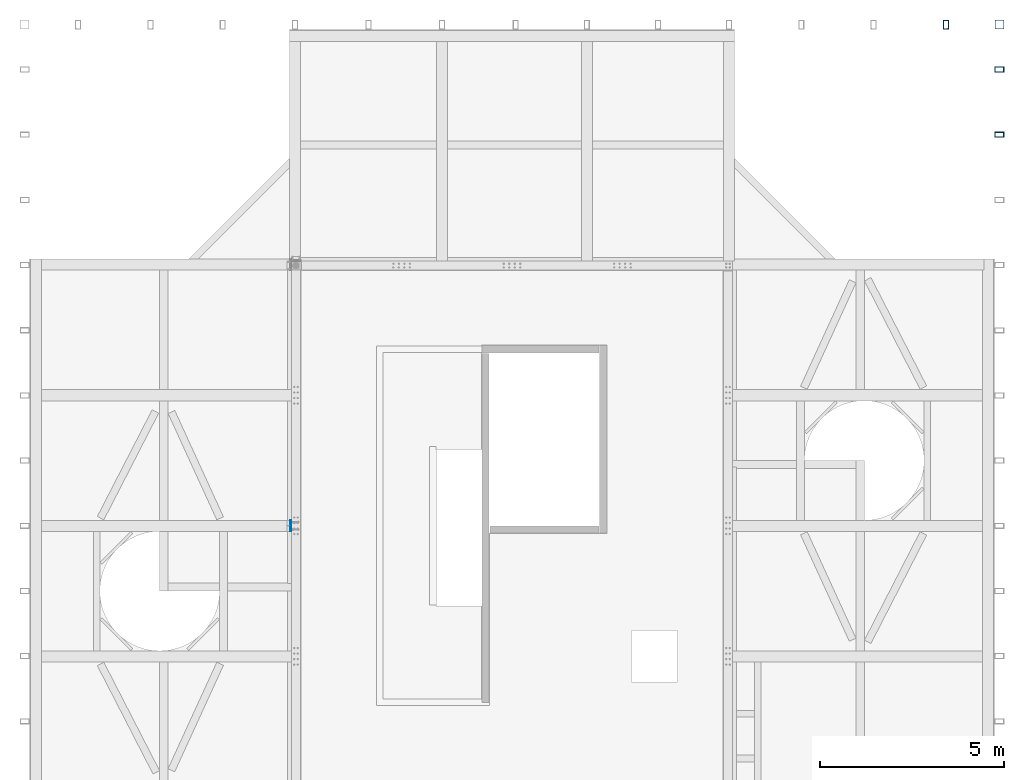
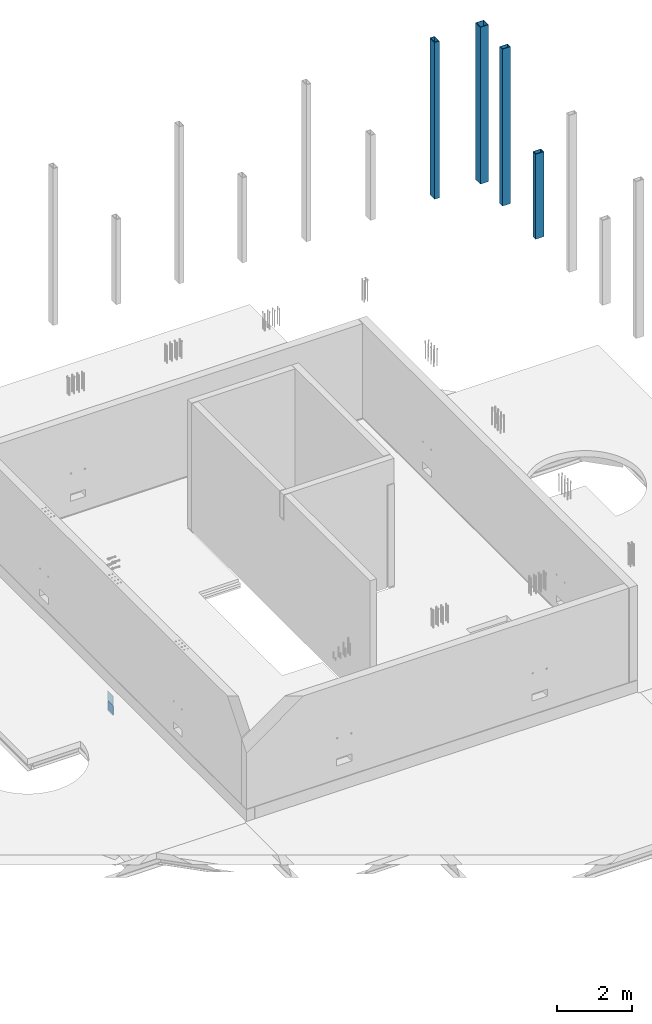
# One storey, part 5 of 16: 8 columns.
"""IFC2X3 building model written with IfcOpenShell, lengths in millimetres."""

from ifc_helpers import new_model, entity, si_unit, converted_unit, derived_unit, direction, frame, frame_2d, origin, origin_2d_with_axis, place, context, subcontext, project, spatial, polyline, circle_curve, parameter, trimmed, segment, composite_curve, rectangle, outline, extrude, source, transform, mapped, material, type_object, type_shapes, element, save


model = new_model("IFC2X3")

# Units and contexts
model_context = context("Model", 3, precision=0.01, world=origin(), true_north=direction((6.12303176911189e-17, 1.0)))
body_context = subcontext(model_context, "Body", "Model", "MODEL_VIEW")
ifc_project = project(units=[si_unit("LENGTHUNIT", "METRE", prefix="MILLI"), si_unit("AREAUNIT", "SQUARE_METRE"), si_unit("VOLUMEUNIT", "CUBIC_METRE"), converted_unit("PLANEANGLEUNIT", "DEGREE", entity("IfcRatioMeasure", 0.0174532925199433), si_unit("PLANEANGLEUNIT", "RADIAN"), dimensions=[0, 0, 0, 0, 0, 0, 0]), si_unit("MASSUNIT", "GRAM", prefix="KILO"), derived_unit("MASSDENSITYUNIT", [(si_unit("MASSUNIT", "GRAM", prefix="KILO"), 1), (si_unit("LENGTHUNIT", "METRE"), -3)]), si_unit("TIMEUNIT", "SECOND"), si_unit("FREQUENCYUNIT", "HERTZ"), si_unit("THERMODYNAMICTEMPERATUREUNIT", "DEGREE_CELSIUS"), derived_unit("THERMALTRANSMITTANCEUNIT", [(si_unit("MASSUNIT", "GRAM", prefix="KILO"), 1), (si_unit("THERMODYNAMICTEMPERATUREUNIT", "KELVIN"), -1), (si_unit("TIMEUNIT", "SECOND"), -3)]), derived_unit("VOLUMETRICFLOWRATEUNIT", [(si_unit("LENGTHUNIT", "METRE"), 3), (si_unit("TIMEUNIT", "SECOND"), -1)]), si_unit("ELECTRICCURRENTUNIT", "AMPERE"), si_unit("ELECTRICVOLTAGEUNIT", "VOLT"), si_unit("POWERUNIT", "WATT"), si_unit("FORCEUNIT", "NEWTON", prefix="KILO"), si_unit("ILLUMINANCEUNIT", "LUX"), si_unit("LUMINOUSFLUXUNIT", "LUMEN"), si_unit("LUMINOUSINTENSITYUNIT", "CANDELA"), derived_unit("USERDEFINED", [(si_unit("MASSUNIT", "GRAM", prefix="KILO"), -1), (si_unit("LENGTHUNIT", "METRE"), -2), (si_unit("TIMEUNIT", "SECOND"), 3), (si_unit("LUMINOUSFLUXUNIT", "LUMEN"), 1)]), derived_unit("LINEARVELOCITYUNIT", [(si_unit("LENGTHUNIT", "METRE"), 1), (si_unit("TIMEUNIT", "SECOND"), -1)]), si_unit("PRESSUREUNIT", "PASCAL"), derived_unit("USERDEFINED", [(si_unit("LENGTHUNIT", "METRE"), -2), (si_unit("MASSUNIT", "GRAM", prefix="KILO"), 1), (si_unit("TIMEUNIT", "SECOND"), -2)])], contexts=[model_context])

# Site, building, storey
site_placement = place(None, origin())
site = spatial("IfcSite", under=ifc_project, at=site_placement, Name="Default", CompositionType="ELEMENT")
building_placement = place(site_placement, origin())
building = spatial("IfcBuilding", under=site, at=building_placement, Name="niet gebruiken", CompositionType="ELEMENT")
storey_placement = place(building_placement, frame((0.0, 0.0, 183150.0)))
storey = spatial("IfcBuildingStorey", under=building, at=storey_placement, Name="58 achtenvijftigste verdieping", CompositionType="ELEMENT", Elevation=183150.0)

# Columns
ifc_material = material(Name="NLRS_h2_staal")
column_type_1 = type_object("IfcColumnType", Name="kolom buisprofiel rechthoekig RHSH_250x150x16", PredefinedType="COLUMN", material=ifc_material)
shared_shape_1 = source(origin(), body_context, "Body", "SweptSolid", [
    extrude(outline(polyline([(-125.0, -75.0), (125.0, -75.0), (125.0, 75.0), (-125.0, 75.0), (-125.0, -75.0)]), holes=[composite_curve([segment(trimmed(circle_curve(frame_2d((-96.5, -46.5), x_axis=(0.0, 1.0)), 12.5), [parameter(90.0)], [parameter(180.0)], True, "PARAMETER"), False, "CONTINUOUS"), segment(polyline([(-109.0, -46.4999999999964), (-109.0, 46.5)]), True, "CONTINUOUS"), segment(trimmed(circle_curve(frame_2d((-96.5, 46.5), x_axis=(0.0, 1.0)), 12.5), [parameter(360.0)], [parameter(89.9999999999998)], True, "PARAMETER"), False, "CONTINUOUS"), segment(polyline([(-96.5, 59.0), (96.5, 59.0)]), True, "CONTINUOUS"), segment(trimmed(circle_curve(frame_2d((96.5, 46.5), x_axis=(0.0, 1.0)), 12.5), [parameter(270.0)], [parameter(360.0)], True, "PARAMETER"), False, "CONTINUOUS"), segment(polyline([(109.0, 46.5), (109.0, -46.4999999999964)]), True, "CONTINUOUS"), segment(trimmed(circle_curve(frame_2d((96.5, -46.5), x_axis=(0.0, 1.0)), 12.5), [parameter(180.0)], [parameter(270.0)], True, "PARAMETER"), False, "CONTINUOUS"), segment(polyline([(96.5, -59.0), (-96.5, -59.0)]), True, "CONTINUOUS")], self_intersect=False)]), frame((155005.0, 28135.0, 184200.0)), (0.0, 0.0, 1.0), 2760.0),
])
type_shapes(column_type_1, [shared_shape_1])
column_1_placement = place(storey_placement, frame((0.0, 0.0, -183150.0)))
element("IfcColumn", 1, at=column_1_placement, inside=storey, type_object=column_type_1, material=ifc_material, Name="NLRS_28.11_SCO_TLB_stalen kolom buisprofiel rechthoekig_gen:kolom buisprofiel rechthoekig RHSH_250x150x16", ObjectType="kolom buisprofiel rechthoekig RHSH_250x150x16", context=body_context, shape_type="MappedRepresentation", body=[
    mapped(shared_shape_1, transform((0.0, 0.0, 0.0), scale=1.0)),
])
column_type_2 = type_object("IfcColumnType", Name="kolom buisprofiel rechthoekig RHSH_250x150x16", PredefinedType="COLUMN", material=ifc_material)
shared_shape_2 = source(origin(), body_context, "Body", "SweptSolid", [
    extrude(outline(polyline([(-125.0, -75.0), (125.0, -75.0), (125.0, 75.0), (-125.0, 75.0), (-125.0, -75.0)]), holes=[composite_curve([segment(trimmed(circle_curve(frame_2d((-96.5, -46.5000000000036), x_axis=(0.0, 1.0)), 12.5), [parameter(90.0)], [parameter(180.0)], True, "PARAMETER"), False, "CONTINUOUS"), segment(polyline([(-109.0, -46.4999999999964), (-109.0, 46.5)]), True, "CONTINUOUS"), segment(trimmed(circle_curve(frame_2d((-96.5, 46.5), x_axis=(0.0, 1.0)), 12.5), [parameter(360.0)], [parameter(89.9999999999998)], True, "PARAMETER"), False, "CONTINUOUS"), segment(polyline([(-96.5, 59.0), (96.5, 59.0)]), True, "CONTINUOUS"), segment(trimmed(circle_curve(frame_2d((96.5, 46.5), x_axis=(0.0, 1.0)), 12.5), [parameter(270.0)], [parameter(360.0)], True, "PARAMETER"), False, "CONTINUOUS"), segment(polyline([(109.0, 46.5), (109.0, -46.4999999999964)]), True, "CONTINUOUS"), segment(trimmed(circle_curve(frame_2d((96.5, -46.5000000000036), x_axis=(0.0, 1.0)), 12.5), [parameter(180.0)], [parameter(270.0)], True, "PARAMETER"), False, "CONTINUOUS"), segment(polyline([(96.5, -59.0), (-96.5, -59.0)]), True, "CONTINUOUS")], self_intersect=False)]), frame((155005.0, 29907.4999999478, 184200.0)), (0.0, 0.0, 1.0), 5089.99999999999),
])
type_shapes(column_type_2, [shared_shape_2])
column_2_placement = place(storey_placement, frame((0.0, 0.0, -183150.0)))
element("IfcColumn", 2, at=column_2_placement, inside=storey, type_object=column_type_2, material=ifc_material, Name="NLRS_28.11_SCO_TLB_stalen kolom buisprofiel rechthoekig_gen:kolom buisprofiel rechthoekig RHSH_250x150x16", ObjectType="kolom buisprofiel rechthoekig RHSH_250x150x16", context=body_context, shape_type="MappedRepresentation", body=[
    mapped(shared_shape_2, transform((0.0, 0.0, 0.0), scale=1.0)),
])
column_type_3 = type_object("IfcColumnType", Name="kolom buisprofiel warmgevormd vierkant SHSH_250x250x16", PredefinedType="COLUMN", material=ifc_material)
shared_shape_3 = source(origin(), body_context, "Body", "SweptSolid", [
    extrude(outline(polyline([(-125.0, -125.0), (125.0, -125.0), (125.0, 125.0), (-125.0, 125.0), (-125.0, -125.0)]), holes=[composite_curve([segment(trimmed(circle_curve(frame_2d((-99.0, -99.0), x_axis=(0.0, 1.0)), 10.0), [parameter(90.0000000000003)], [parameter(180.0)], True, "PARAMETER"), False, "CONTINUOUS"), segment(polyline([(-109.0, -99.0), (-109.0, 99.0)]), True, "CONTINUOUS"), segment(trimmed(circle_curve(frame_2d((-99.0, 99.0), x_axis=(0.0, 1.0)), 10.0), [parameter(0.0)], [parameter(89.9999999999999)], True, "PARAMETER"), False, "CONTINUOUS"), segment(polyline([(-99.0, 109.0), (99.0, 109.0)]), True, "CONTINUOUS"), segment(trimmed(circle_curve(frame_2d((99.0, 99.0), x_axis=(0.0, 1.0)), 10.0), [parameter(270.0)], [parameter(360.0)], True, "PARAMETER"), False, "CONTINUOUS"), segment(polyline([(109.0, 99.0), (109.0, -99.0)]), True, "CONTINUOUS"), segment(trimmed(circle_curve(frame_2d((99.0, -99.0), x_axis=(0.0, 1.0)), 10.0), [parameter(180.0)], [parameter(270.0)], True, "PARAMETER"), False, "CONTINUOUS"), segment(polyline([(99.0, -109.0), (-99.0, -109.0)]), True, "CONTINUOUS")], self_intersect=False)]), frame((155005.0, 31130.0, 184200.0), z_axis=(0.0, 0.0, 1.0), x_axis=(0.0, -1.0, 0.0)), (0.0, 0.0, 1.0), 5089.99999999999),
])
type_shapes(column_type_3, [shared_shape_3])
column_3_placement = place(storey_placement, frame((0.0, 0.0, -183150.0)))
element("IfcColumn", 3, at=column_3_placement, inside=storey, type_object=column_type_3, material=ifc_material, Name="NLRS_28.11_SCO_TLB_stalen kolom buisprofiel warmgevormd vierkant_gen:kolom buisprofiel warmgevormd vierkant SHSH_250x250x16", ObjectType="kolom buisprofiel warmgevormd vierkant SHSH_250x250x16", context=body_context, shape_type="MappedRepresentation", body=[
    mapped(shared_shape_3, transform((0.0, 0.0, 0.0), scale=1.0)),
])
column_type_4 = type_object("IfcColumnType", Name="kolom buisprofiel rechthoekig RHSH_250x150x16", PredefinedType="COLUMN", material=ifc_material)
shared_shape_4 = source(origin(), body_context, "Body", "SweptSolid", [
    extrude(outline(polyline([(-125.0, -75.0), (125.0, -75.0), (125.0, 75.0), (-125.0, 75.0), (-125.0, -75.0)]), holes=[composite_curve([segment(trimmed(circle_curve(frame_2d((-96.5, -46.5), x_axis=(0.0, 1.0)), 12.5), [parameter(90.0)], [parameter(180.0)], True, "PARAMETER"), False, "CONTINUOUS"), segment(polyline([(-109.0, -46.5), (-109.0, 46.5)]), True, "CONTINUOUS"), segment(trimmed(circle_curve(frame_2d((-96.5, 46.5), x_axis=(0.0, 1.0)), 12.5), [parameter(360.0)], [parameter(89.9999999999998)], True, "PARAMETER"), False, "CONTINUOUS"), segment(polyline([(-96.5, 59.0), (96.5000000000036, 59.0)]), True, "CONTINUOUS"), segment(trimmed(circle_curve(frame_2d((96.5, 46.5), x_axis=(0.0, 1.0)), 12.5), [parameter(270.0)], [parameter(360.0)], True, "PARAMETER"), False, "CONTINUOUS"), segment(polyline([(109.0, 46.5), (109.0, -46.5)]), True, "CONTINUOUS"), segment(trimmed(circle_curve(frame_2d((96.5, -46.5), x_axis=(0.0, 1.0)), 12.5), [parameter(180.0)], [parameter(270.0)], True, "PARAMETER"), False, "CONTINUOUS"), segment(polyline([(96.5000000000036, -59.0), (-96.5, -59.0)]), True, "CONTINUOUS")], self_intersect=False)]), frame((153550.0, 31130.0, 184200.0), z_axis=(0.0, 0.0, 1.0), x_axis=(0.0, -1.0, 0.0)), (0.0, 0.0, 1.0), 5089.99999999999),
])
type_shapes(column_type_4, [shared_shape_4])
column_4_placement = place(storey_placement, frame((0.0, 0.0, -183150.0)))
element("IfcColumn", 4, at=column_4_placement, inside=storey, type_object=column_type_4, material=ifc_material, Name="NLRS_28.11_SCO_TLB_stalen kolom buisprofiel rechthoekig_gen:kolom buisprofiel rechthoekig RHSH_250x150x16", ObjectType="kolom buisprofiel rechthoekig RHSH_250x150x16", context=body_context, shape_type="MappedRepresentation", body=[
    mapped(shared_shape_4, transform((0.0, 0.0, 0.0), scale=1.0)),
])
column_type_5 = type_object("IfcColumnType", Name="kolom stripstaal RECT_300x15", PredefinedType="COLUMN", material=ifc_material)
shared_shape_5 = source(origin(), body_context, "Body", "SweptSolid", [
    extrude(rectangle(XDim=299.999999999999, YDim=14.9999999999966, at=origin_2d_with_axis()), frame((135732.472129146, 17500.0, 181955.0), z_axis=(0.0, 0.0, 1.0), x_axis=(0.0, -1.0, 0.0)), (0.0, 0.0, 1.0), 300.000000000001),
])
type_shapes(column_type_5, [shared_shape_5])
column_5_placement = place(storey_placement, frame((0.0, 0.0, -183150.0)))
element("IfcColumn", 5, at=column_5_placement, inside=storey, type_object=column_type_5, material=ifc_material, Name="NLRS_28.11_SCO_TLB_stalen kolom stripstaal_gen:kolom stripstaal RECT_300x15", ObjectType="kolom stripstaal RECT_300x15", context=body_context, shape_type="MappedRepresentation", body=[
    mapped(shared_shape_5, transform((0.0, 0.0, 0.0), scale=1.0)),
])
column_type_6 = type_object("IfcColumnType", Name="kolom stripstaal RECT_300x5", PredefinedType="COLUMN", material=ifc_material)
shared_shape_6 = source(origin(), body_context, "Body", "SweptSolid", [
    extrude(rectangle(XDim=299.999999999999, YDim=4.99999999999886, at=origin_2d_with_axis()), frame((135747.5, 17500.0, 181955.0), z_axis=(0.0, 0.0, 1.0), x_axis=(0.0, -1.0, 0.0)), (0.0, 0.0, 1.0), 300.000000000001),
])
type_shapes(column_type_6, [shared_shape_6])
column_6_placement = place(storey_placement, frame((0.0, 0.0, -183150.0)))
element("IfcColumn", 6, at=column_6_placement, inside=storey, type_object=column_type_6, material=ifc_material, Name="NLRS_28.11_SCO_TLB_stalen kolom stripstaal_gen:kolom stripstaal RECT_300x5", ObjectType="kolom stripstaal RECT_300x5", context=body_context, shape_type="MappedRepresentation", body=[
    mapped(shared_shape_6, transform((0.0, 0.0, 0.0), scale=1.0)),
])
column_type_7 = type_object("IfcColumnType", Name="kolom stripstaal RECT_300x5", PredefinedType="COLUMN", material=ifc_material)
shared_shape_7 = source(origin(), body_context, "Body", "SweptSolid", [
    extrude(rectangle(XDim=299.999999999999, YDim=4.99999999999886, at=origin_2d_with_axis()), frame((135742.472129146, 17500.0, 181955.0), z_axis=(0.0, 0.0, 1.0), x_axis=(0.0, -1.0, 0.0)), (0.0, 0.0, 1.0), 300.000000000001),
])
type_shapes(column_type_7, [shared_shape_7])
column_7_placement = place(storey_placement, frame((0.0, 0.0, -183150.0)))
element("IfcColumn", 7, at=column_7_placement, inside=storey, type_object=column_type_7, material=ifc_material, Name="NLRS_28.11_SCO_TLB_stalen kolom stripstaal_gen:kolom stripstaal RECT_300x5", ObjectType="kolom stripstaal RECT_300x5", context=body_context, shape_type="MappedRepresentation", body=[
    mapped(shared_shape_7, transform((0.0, 0.0, 0.0), scale=1.0)),
])
column_type_8 = type_object("IfcColumnType", Name="kolom stripstaal RECT_300x15", PredefinedType="COLUMN", material=ifc_material)
shared_shape_8 = source(origin(), body_context, "Body", "SweptSolid", [
    extrude(rectangle(XDim=299.999999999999, YDim=14.9999999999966, at=origin_2d_with_axis()), frame((135732.472129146, 17500.0, 182285.0), z_axis=(0.0, 0.0, 1.0), x_axis=(0.0, -1.0, 0.0)), (0.0, 0.0, 1.0), 290.000000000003),
])
type_shapes(column_type_8, [shared_shape_8])
column_8_placement = place(storey_placement, frame((0.0, 0.0, -183150.0)))
element("IfcColumn", 8, at=column_8_placement, inside=storey, type_object=column_type_8, material=ifc_material, Name="NLRS_28.11_SCO_TLB_stalen kolom stripstaal_gen:kolom stripstaal RECT_300x15", ObjectType="kolom stripstaal RECT_300x15", context=body_context, shape_type="MappedRepresentation", body=[
    mapped(shared_shape_8, transform((0.0, 0.0, 0.0), scale=1.0)),
])

save(model, "model.ifc")
